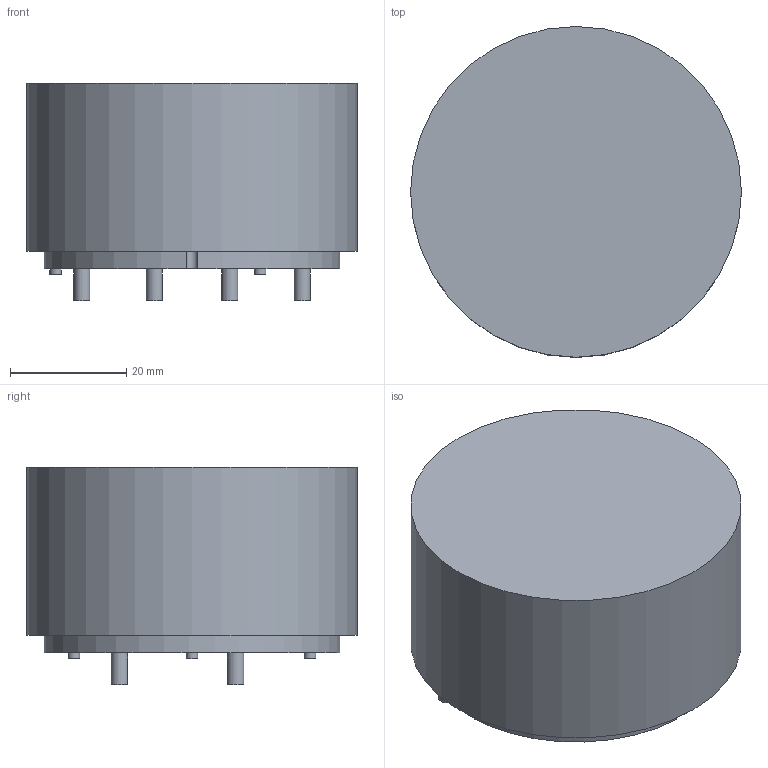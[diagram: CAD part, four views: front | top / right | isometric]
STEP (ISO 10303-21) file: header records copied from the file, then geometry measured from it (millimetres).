
FILE_DESCRIPTION(/* description */ (''),/* implementation_level */ '2;1');
FILE_NAME(/* name */ 'F:\Done\2016\产品3D模拟 新型号\修改针径\6123-X248\6123-X248 3D Model.stp',/* time_stamp */ '2016-07-11T10:45:00+08:00',/* author */ ('CN000562'),/* organization */ (''),/* preprocessor_version */ 'ST-DEVELOPER v16.5',/* originating_system */ 'Autodesk Inventor 2017',/* authorisation */ '');
FILE_SCHEMA (('AUTOMOTIVE_DESIGN { 1 0 10303 214 3 1 1 }'));
Length unit declared in the file: millimetre
Products named in the file (1): 6123-X316
Bounding box: 57 x 57 x 37.5 mm (x, y, z)
Volume: 80267.3 mm3; surface area: 11000.6 mm2
Topology: 1 solids, 1 shells, 22 faces, 34 edges, 22 vertices
Faces by surface type: cylinder 11, plane 11
Full cylindrical faces by diameter (mm): 2 x3, 2.8 x4, 57 x1
Entity records: 494 total; most frequent: DIRECTION 94, CARTESIAN_POINT 71, ORIENTED_EDGE 52, AXIS2_PLACEMENT_3D 45, EDGE_LOOP 38, EDGE_CURVE 26, FACE_OUTER_BOUND 22, CIRCLE 22
